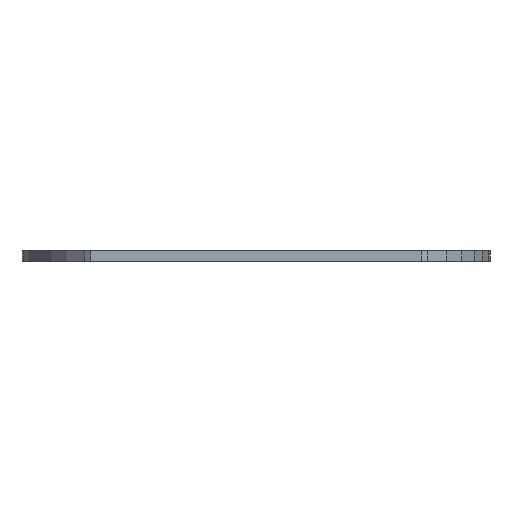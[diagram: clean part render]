
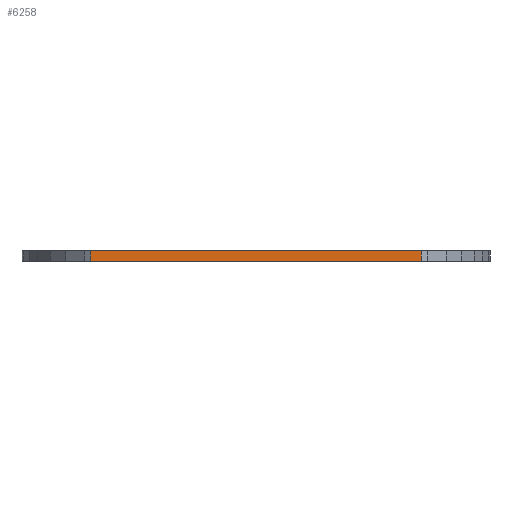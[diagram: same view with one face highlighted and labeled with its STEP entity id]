
A CAD part, front view. The second image highlights one B-rep face of the part: STEP entity #6258.
In plain terms, the highlighted planar face has unit normal (0, -1, 0).
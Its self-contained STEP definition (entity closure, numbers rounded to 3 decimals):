
#392 = VERTEX_POINT('',#393);
#393 = CARTESIAN_POINT('',(2.793,-64.,0.));
#399 = EDGE_CURVE('',#400,#392,#402,.T.);
#400 = VERTEX_POINT('',#401);
#401 = CARTESIAN_POINT('',(52.207,-64.,0.));
#402 = LINE('',#403,#404);
#403 = CARTESIAN_POINT('',(52.207,-64.,0.));
#404 = VECTOR('',#405,1.);
#405 = DIRECTION('',(-1.,0.,0.));
#2968 = VERTEX_POINT('',#2969);
#2969 = CARTESIAN_POINT('',(2.793,-64.,1.51));
#2975 = EDGE_CURVE('',#2976,#2968,#2978,.T.);
#2976 = VERTEX_POINT('',#2977);
#2977 = CARTESIAN_POINT('',(52.207,-64.,1.51));
#2978 = LINE('',#2979,#2980);
#2979 = CARTESIAN_POINT('',(52.207,-64.,1.51));
#2980 = VECTOR('',#2981,1.);
#2981 = DIRECTION('',(-1.,0.,0.));
#6230 = EDGE_CURVE('',#400,#2976,#6231,.T.);
#6231 = LINE('',#6232,#6233);
#6232 = CARTESIAN_POINT('',(52.207,-64.,0.));
#6233 = VECTOR('',#6234,1.);
#6234 = DIRECTION('',(0.,0.,1.));
#6258 = ADVANCED_FACE('',(#6259),#6270,.T.);
#6259 = FACE_BOUND('',#6260,.T.);
#6260 = EDGE_LOOP('',(#6261,#6262,#6263,#6269));
#6261 = ORIENTED_EDGE('',*,*,#6230,.T.);
#6262 = ORIENTED_EDGE('',*,*,#2975,.T.);
#6263 = ORIENTED_EDGE('',*,*,#6264,.F.);
#6264 = EDGE_CURVE('',#392,#2968,#6265,.T.);
#6265 = LINE('',#6266,#6267);
#6266 = CARTESIAN_POINT('',(2.793,-64.,0.));
#6267 = VECTOR('',#6268,1.);
#6268 = DIRECTION('',(0.,0.,1.));
#6269 = ORIENTED_EDGE('',*,*,#399,.F.);
#6270 = PLANE('',#6271);
#6271 = AXIS2_PLACEMENT_3D('',#6272,#6273,#6274);
#6272 = CARTESIAN_POINT('',(52.207,-64.,0.));
#6273 = DIRECTION('',(0.,-1.,0.));
#6274 = DIRECTION('',(-1.,0.,0.));
